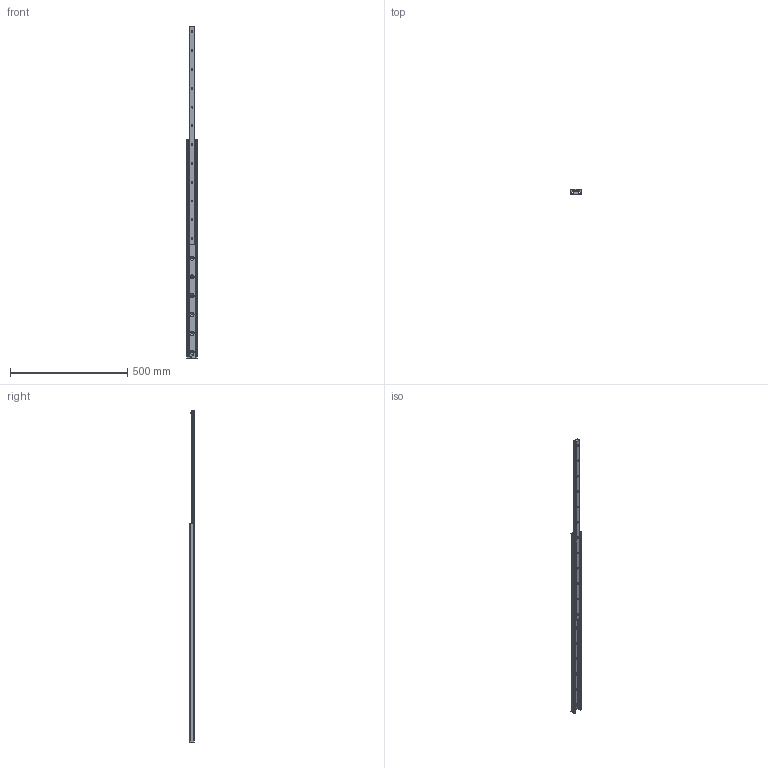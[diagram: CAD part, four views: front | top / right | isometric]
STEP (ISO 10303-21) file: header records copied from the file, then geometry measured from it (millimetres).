
FILE_DESCRIPTION(('STEP AP214'),'1');
FILE_NAME('rail_asn43-930_01.stp','2017-06-06T10:18:21',('TraceParts'),('TraceParts S.A.'),'Spatial InterOp 3D',' ',' ');
FILE_SCHEMA(('automotive_design'));
Length unit declared in the file: millimetre
Products named in the file (2): rail_asn43-930_01_1; rail_asn43-930_01_2
Bounding box: 43 x 22.01 x 1413 mm (x, y, z)
Volume: 566108.2 mm3; surface area: 219504.3 mm2
Topology: 2 solids, 2 shells, 197 faces, 492 edges, 304 vertices
Faces by surface type: cylinder 79, cone 72, plane 46
Entity records: 6006 total; most frequent: DIRECTION 1120, CARTESIAN_POINT 995, ORIENTED_EDGE 984, EDGE_CURVE 492, AXIS2_PLACEMENT_3D 429, VERTEX_POINT 304, LINE 262, VECTOR 262
